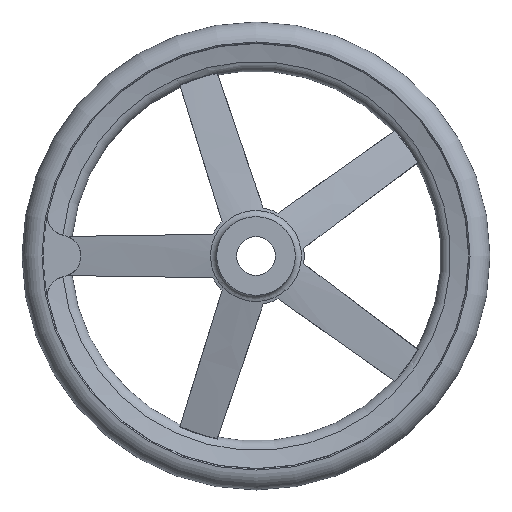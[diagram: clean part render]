
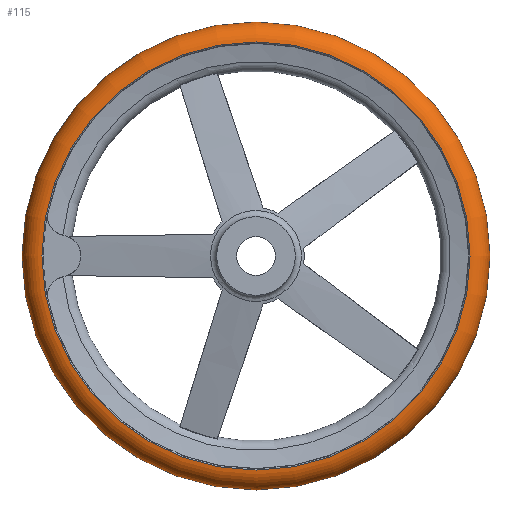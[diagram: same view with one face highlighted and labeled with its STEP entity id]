
A CAD part, left-side view. The second image highlights one B-rep face of the part: STEP entity #115.
In plain terms, the highlighted toroidal (fillet/blend) face has major radius 143.487 mm and minor radius 14.013 mm.
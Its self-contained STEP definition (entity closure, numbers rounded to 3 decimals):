
#115 = ADVANCED_FACE( '', ( #225, #226, #227 ), #228, .T. );
#225 = FACE_BOUND( '', #354, .T. );
#226 = FACE_OUTER_BOUND( '', #355, .T. );
#227 = FACE_OUTER_BOUND( '', #356, .T. );
#228 = TOROIDAL_SURFACE( '', #357, 143.487, 14.013 );
#354 = VERTEX_LOOP( '', #741 );
#355 = EDGE_LOOP( '', ( #742 ) );
#356 = EDGE_LOOP( '', ( #743 ) );
#357 = AXIS2_PLACEMENT_3D( '', #744, #745, #746 );
#741 = VERTEX_POINT( '', #976 );
#742 = ORIENTED_EDGE( '', *, *, #977, .T. );
#743 = ORIENTED_EDGE( '', *, *, #975, .F. );
#744 = CARTESIAN_POINT( '', ( 42., 0., 0. ) );
#745 = DIRECTION( '', ( -1., 0., 0. ) );
#746 = DIRECTION( '', ( 0., -1., 0. ) );
#975 = EDGE_CURVE( '', #1219, #1219, #1220, .T. );
#976 = CARTESIAN_POINT( '', ( 42., -157.5, 0. ) );
#977 = EDGE_CURVE( '', #1221, #1221, #1222, .T. );
#1219 = VERTEX_POINT( '', #2121 );
#1220 = CIRCLE( '', #2122, 144.083 );
#1221 = VERTEX_POINT( '', #2123 );
#1222 = CIRCLE( '', #2124, 144.083 );
#2121 = CARTESIAN_POINT( '', ( 28., -144.083, 0. ) );
#2122 = AXIS2_PLACEMENT_3D( '', #2358, #2359, #2360 );
#2123 = CARTESIAN_POINT( '', ( 56., -144.083, 0. ) );
#2124 = AXIS2_PLACEMENT_3D( '', #2361, #2362, #2363 );
#2358 = CARTESIAN_POINT( '', ( 28., 0., 0. ) );
#2359 = DIRECTION( '', ( -1., 0., 0. ) );
#2360 = DIRECTION( '', ( 0., -1., 0. ) );
#2361 = CARTESIAN_POINT( '', ( 56., 0., 0. ) );
#2362 = DIRECTION( '', ( -1., 0., 0. ) );
#2363 = DIRECTION( '', ( 0., -1., 0. ) );
